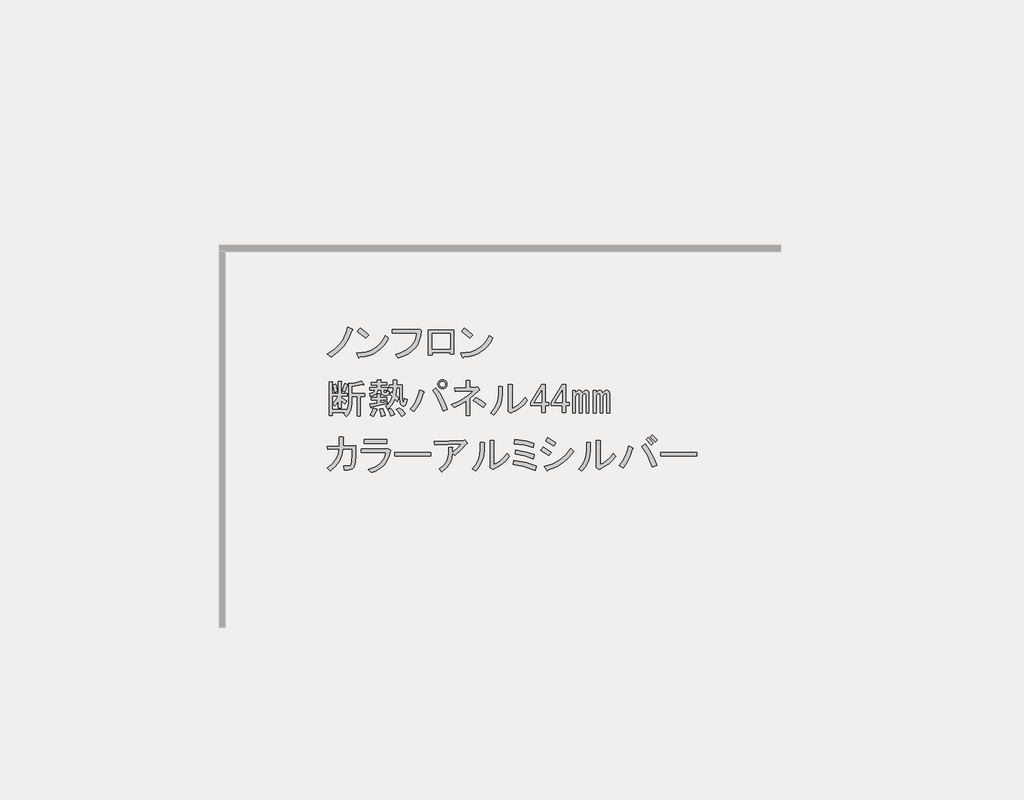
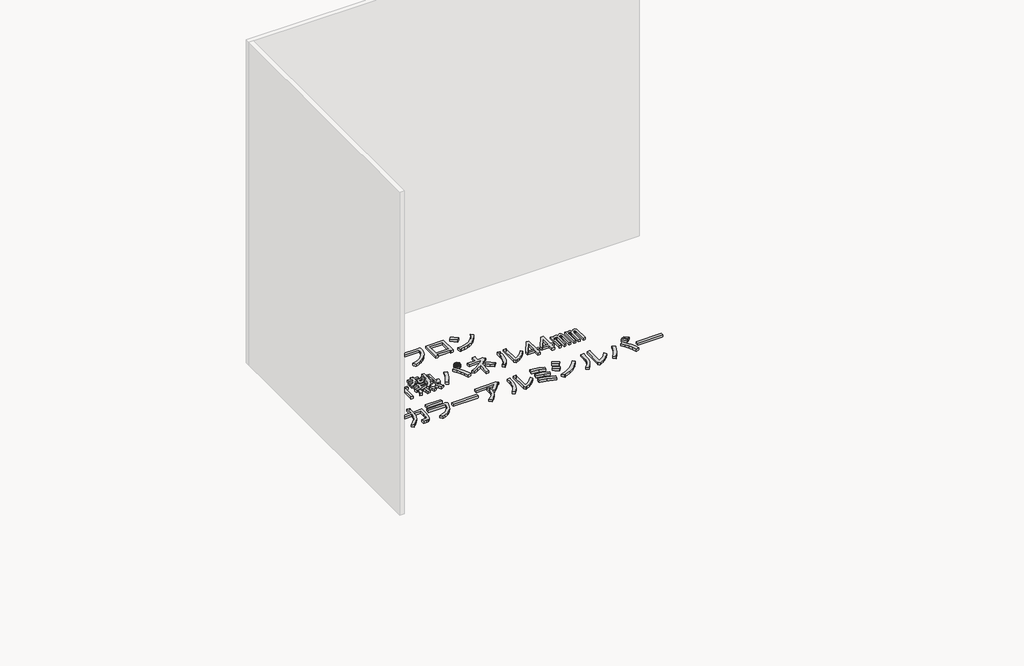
# One storey, part 88 of 117: 1 proxy.
"""IFC4 building model written with IfcOpenShell, lengths in millimetres."""

import ifcopenshell
import ifcopenshell.guid

model = None  # the IFC model being written
_history = None  # IfcOwnerHistory: only IFC2X3 demands one
_inside = {}  # id of a spatial element -> (the spatial element, [elements in it])
_under = {}  # id of a project, library or spatial element -> (it, [spatial elements below it])
_declared = {}  # id of a project -> (the project, [libraries it declares])
_typed = {}  # id of a type object -> (the type object, [elements of that type])
_made_of = {}  # id of a material, layer set ... -> (it, [elements and type objects made of it])


def new_model(schema):
    """Start an empty IFC model of exactly this schema.

    Asked for "IFC4X3", IfcOpenShell would pick the latest addendum, in which some entities
    have other attributes; the version numbers below select the first issue.
    IFC2X3 requires an IfcOwnerHistory on every rooted entity: one is made here for all.
    """
    global model, _history
    if schema == "IFC4X3":
        model = ifcopenshell.file(schema_version=(4, 3, 0, 0))
    else:
        model = ifcopenshell.file(schema=schema)
    _inside.clear()
    _under.clear()
    _declared.clear()
    _typed.clear()
    _made_of.clear()
    _history = None
    if model.schema == "IFC2X3":
        org = make("IfcOrganization", Name="unknown")
        user = make(
            "IfcPersonAndOrganization",
            ThePerson=make("IfcPerson", FamilyName="unknown"),
            TheOrganization=org,
        )
        app = make(
            "IfcApplication",
            ApplicationDeveloper=org,
            Version="unknown",
            ApplicationFullName="unknown",
            ApplicationIdentifier="unknown",
        )
        _history = make(
            "IfcOwnerHistory",
            OwningUser=user,
            OwningApplication=app,
            ChangeAction="ADDED",
            CreationDate=0,
        )
    return model


def make(cls, **values):
    """One entity of the class cls with the attributes given. An attribute that is None is left unset."""
    return model.create_entity(
        cls, **{name: value for name, value in values.items() if value is not None}
    )


def rooted(cls, **values):
    """An entity with a GlobalId (a new one), such as an element, a storey or a relation."""
    return make(cls, GlobalId=ifcopenshell.guid.new(), OwnerHistory=_history, **values)


def si_unit(unit_type, name, prefix=None):
    """IfcSIUnit, for example si_unit("LENGTHUNIT", "METRE", prefix="MILLI")."""
    return make("IfcSIUnit", UnitType=unit_type, Prefix=prefix, Name=name)


def assignment(units):
    """IfcUnitAssignment: the units of a project."""
    return None if units is None else make("IfcUnitAssignment", Units=units)


def point(xyz):
    """IfcCartesianPoint."""
    return None if xyz is None else make("IfcCartesianPoint", Coordinates=xyz)


def direction(xyz):
    """IfcDirection."""
    return None if xyz is None else make("IfcDirection", DirectionRatios=xyz)


def frame(location, z_axis=None, x_axis=None):
    """IfcAxis2Placement3D, a coordinate frame: its origin and axes. An axis left out is left unset."""
    return make(
        "IfcAxis2Placement3D",
        Location=point(location),
        Axis=direction(z_axis),
        RefDirection=direction(x_axis),
    )


def origin():
    """The frame at (0, 0, 0) with its axes left unset."""
    return frame((0.0, 0.0, 0.0))


def place(relative_to, where):
    """IfcLocalPlacement: puts the frame where relative to a parent placement (None: the world)."""
    return make(
        "IfcLocalPlacement", PlacementRelTo=relative_to, RelativePlacement=where
    )


def context(
    kind, dimensions, precision=None, world=None, true_north=None, identifier=None
):
    """IfcGeometricRepresentationContext, for example the 3D "Model" context."""
    return make(
        "IfcGeometricRepresentationContext",
        ContextIdentifier=identifier,
        ContextType=kind,
        CoordinateSpaceDimension=dimensions,
        Precision=precision,
        WorldCoordinateSystem=world,
        TrueNorth=true_north,
    )


def project(units=None, contexts=None):
    """IfcProject with its units and contexts."""
    return rooted(
        "IfcProject",
        Name="project",
        RepresentationContexts=contexts,
        UnitsInContext=assignment(units),
    )


def spatial(cls, under=None, at=None, **own):
    """A site, building, storey or space (cls), placed at a placement, below another one or the project."""
    s = rooted(cls, ObjectPlacement=at, **own)
    if under is not None:
        _under.setdefault(under.id(), (under, []))[1].append(s)
    return s


def polyline(points):
    """IfcPolyline through the points."""
    return make("IfcPolyline", Points=[point(p) for p in points])


def outline(outer, holes=None, kind="AREA"):
    """IfcArbitraryClosedProfileDef: a profile drawn as a closed curve; with holes, ...WithVoids."""
    if holes is None:
        return make("IfcArbitraryClosedProfileDef", ProfileType=kind, OuterCurve=outer)
    return make(
        "IfcArbitraryProfileDefWithVoids",
        ProfileType=kind,
        OuterCurve=outer,
        InnerCurves=holes,
    )


def extrude(swept, where, along, depth):
    """IfcExtrudedAreaSolid: the profile swept, set in the frame where, extruded along a direction by depth."""
    return make(
        "IfcExtrudedAreaSolid",
        SweptArea=swept,
        Position=where,
        ExtrudedDirection=direction(along),
        Depth=depth,
    )


def shape(context_of_items, identifier, shape_type, items):
    """IfcShapeRepresentation: the items that make up one representation, for example the "Body"."""
    return make(
        "IfcShapeRepresentation",
        ContextOfItems=context_of_items,
        RepresentationIdentifier=identifier,
        RepresentationType=shape_type,
        Items=items,
    )


def made_of(thing, what):
    """Note that an element or type object is made of a material, layer set ...; save() writes the relation."""
    if what is not None:
        _made_of.setdefault(what.id(), (what, []))[1].append(thing)
    return thing


def element(
    cls,
    number,
    at=None,
    inside=None,
    cuts=None,
    type_object=None,
    material=None,
    context=None,
    identifier="Body",
    shape_type=None,
    held_by="IfcProductDefinitionShape",
    body=None,
    shapes=None,
    **own,
):
    """One element of the class cls, such as IfcWall. Its Tag is "e" and its number.

    at: its placement. inside: the storey or other place that contains it. cuts: it is an
    opening in that element (IfcRelVoidsElement). A single representation is given by context,
    identifier, shape_type and body (its items); several are given by shapes. held_by: the class
    of the entity that holds the representations. save() writes the other relations.
    """
    e = rooted(cls, Tag="e%d" % number, ObjectPlacement=at, **own)
    if body is not None:
        shapes = [shape(context, identifier, shape_type, body)]
    if shapes is not None:
        e.Representation = make(held_by, Representations=shapes)
    if inside is not None:
        _inside.setdefault(inside.id(), (inside, []))[1].append(e)
    if cuts is not None:
        rooted(
            "IfcRelVoidsElement", RelatingBuildingElement=cuts, RelatedOpeningElement=e
        )
    if type_object is not None:
        _typed.setdefault(type_object.id(), (type_object, []))[1].append(e)
    return made_of(e, material)


def aggregate(whole, parts):
    """IfcRelAggregates: a whole, such as a stair, and the parts it consists of."""
    return rooted("IfcRelAggregates", RelatingObject=whole, RelatedObjects=parts)


def save(model, path):
    """Write the relations noted so far, then the file.

    IfcRelAggregates (storeys below a building ...), IfcRelContainedInSpatialStructure (elements
    in a storey), IfcRelDefinesByType, IfcRelAssociatesMaterial and IfcRelDeclares: one each for
    every whole, place, type object, material and project.
    """
    for whole, parts in _under.values():
        aggregate(whole, parts)
    for where, things in _inside.values():
        rooted(
            "IfcRelContainedInSpatialStructure",
            RelatedElements=things,
            RelatingStructure=where,
        )
    for kind, things in _typed.values():
        rooted("IfcRelDefinesByType", RelatedObjects=things, RelatingType=kind)
    for what, things in _made_of.values():
        rooted("IfcRelAssociatesMaterial", RelatedObjects=things, RelatingMaterial=what)
    for by, libraries in _declared.values():
        rooted("IfcRelDeclares", RelatingContext=by, RelatedDefinitions=libraries)
    model.write(path)


model = new_model("IFC4")

# Units and contexts
model_context = context("Model", 3, world=origin())
ifc_project = project(units=[si_unit("LENGTHUNIT", "METRE", prefix="MILLI")], contexts=[model_context])

# Site, building, storey
site = spatial("IfcSite", under=ifc_project)
building = spatial("IfcBuilding", under=site)
storey = spatial("IfcBuildingStorey", under=building, Name="レベル 1", Elevation=500.0)

# Proxy
placement = place(None, origin())
element("IfcBuildingElementProxy", 1, Name="200㎜\u3000MS Pゴシック", ObjectType="200㎜\u3000MS Pゴシック", at=placement, inside=storey, context=model_context, shape_type="SweptSolid", body=[
    extrude(outline(polyline([(943.6706985, 11392.9503118), (918.0952502, 11333.1784775), (889.646156, 11287.2001434), (847.9782907, 11241.7965385), (798.8389462, 11204.439142), (771.2519457, 11226.2788507), (818.9544673, 11256.7394971), (858.6107805, 11295.2463519), (875.9963381, 11319.1694538), (891.3703435, 11347.2593423), (904.7327969, 11379.5160173), (916.0836981, 11415.9394788), (947.1190736, 11402.1459786), (950.2800841, 11397.5481452), (943.6706985, 11392.9503118)])), frame((0.0, 0.0, 500.0), z_axis=(0.0, 0.0, 1.0), x_axis=(1.0, 0.0, 0.0)), (0.0, 0.0, 1.0), 25.0),
    extrude(outline(polyline([(1043.3977052, 11337.7763109), (984.7753292, 11384.9041033), (1004.3161212, 11409.0427287), (1031.6157571, 11389.2145721), (1065.2374138, 11359.6160196), (1043.3977052, 11337.7763109)])), frame((0.0, 0.0, 500.0), z_axis=(0.0, 0.0, 1.0), x_axis=(1.0, 0.0, 0.0)), (0.0, 0.0, 1.0), 25.0),
    extrude(outline(polyline([(1205.4713328, 11337.7763109), (1188.947869, 11308.034076), (1169.8381239, 11282.0275808), (1148.1420975, 11259.7568252), (1123.8597898, 11241.2218093), (1096.9912008, 11226.422533), (1067.5363306, 11215.3589964), (1035.495179, 11208.0311994), (1000.8677461, 11204.439142), (995.1204544, 11196.3929336), (989.3731626, 11202.1402253), (980.1774958, 11232.0261425), (1016.0082679, 11234.7022252), (1048.7857912, 11241.0062859), (1078.5100658, 11250.9383244), (1105.1810916, 11264.4983409), (1128.7988687, 11281.6863354), (1149.363397, 11302.5023077), (1166.8746766, 11326.946258), (1181.3327074, 11355.0181862), (1205.4713328, 11337.7763109)])), frame((0.0, 0.0, 500.0), z_axis=(0.0, 0.0, 1.0), x_axis=(1.0, 0.0, 0.0)), (0.0, 0.0, 1.0), 25.0),
    extrude(outline(polyline([(1256.2314136, 11222.8304757), (1290.014713, 11232.5110702), (1319.5234641, 11244.8857078), (1344.757667, 11259.9543884), (1365.7173217, 11277.717112), (1382.402428, 11298.1738786), (1394.8129862, 11321.3246882), (1402.9489961, 11347.1695409), (1406.8104577, 11375.7084365), (1234.3917049, 11375.7084365), (1234.3917049, 11400.9965202), (1409.1093744, 11400.9965202), (1425.2017914, 11404.4448953), (1437.8458332, 11392.9503118), (1434.325617, 11356.4550091), (1426.0638851, 11323.4080815), (1413.0606375, 11293.8095289), (1395.3158742, 11267.6593514), (1372.8295952, 11244.957549), (1345.6018005, 11225.7041216), (1313.6324901, 11209.8990692), (1276.921664, 11197.5423919), (1256.2314136, 11222.8304757)])), frame((0.0, 0.0, 500.0), z_axis=(0.0, 0.0, 1.0), x_axis=(1.0, 0.0, 0.0)), (0.0, 0.0, 1.0), 25.0),
    extrude(outline(polyline([(1670.955987, 11223.979934), (1644.5184449, 11223.979934), (1644.5184449, 11236.6239759), (1516.9285679, 11236.6239759), (1516.9285679, 11218.2326423), (1490.4910258, 11218.2326423), (1490.4910258, 11397.5481452), (1670.955987, 11397.5481452), (1670.955987, 11223.979934)]), holes=[polyline([(1516.9285679, 11372.2600614), (1516.9285679, 11261.9120596), (1644.5184449, 11261.9120596), (1644.5184449, 11372.2600614), (1516.9285679, 11372.2600614)])]), frame((0.0, 0.0, 500.0), z_axis=(0.0, 0.0, 1.0), x_axis=(1.0, 0.0, 0.0)), (0.0, 0.0, 1.0), 25.0),
    extrude(outline(polyline([(1947.0099049, 11337.7763109), (1930.4864411, 11308.034076), (1911.376696, 11282.0275808), (1889.6806696, 11259.7568252), (1865.3983619, 11241.2218093), (1838.5297729, 11226.422533), (1809.0749026, 11215.3589964), (1777.0337511, 11208.0311994), (1742.4063182, 11204.439142), (1736.6590264, 11196.3929336), (1730.9117347, 11202.1402253), (1721.7160679, 11232.0261425), (1757.5468399, 11234.7022252), (1790.3243633, 11241.0062859), (1820.0486378, 11250.9383244), (1846.7196637, 11264.4983409), (1870.3374407, 11281.6863354), (1890.9019691, 11302.5023077), (1908.4132486, 11326.946258), (1922.8712795, 11355.0181862), (1947.0099049, 11337.7763109)])), frame((0.0, 0.0, 500.0), z_axis=(0.0, 0.0, 1.0), x_axis=(1.0, 0.0, 0.0)), (0.0, 0.0, 1.0), 25.0),
    extrude(outline(polyline([(1784.9362772, 11337.7763109), (1726.3139013, 11384.9041033), (1745.8546933, 11409.0427287), (1773.1543291, 11389.2145721), (1806.7759859, 11359.6160196), (1784.9362772, 11337.7763109)])), frame((0.0, 0.0, 500.0), z_axis=(0.0, 0.0, 1.0), x_axis=(1.0, 0.0, 0.0)), (0.0, 0.0, 1.0), 25.0),
    extrude(outline(polyline([(877.0021141, 10960.7654779), (894.2439894, 11013.6405621), (914.9342397, 11007.8932704), (916.6584273, 11004.7322599), (912.635323, 11002.1459786), (895.3934478, 10953.8687278), (877.0021141, 10960.7654779)])), frame((0.0, 0.0, 500.0), z_axis=(0.0, 0.0, 1.0), x_axis=(1.0, 0.0, 0.0)), (0.0, 0.0, 1.0), 25.0),
    extrude(outline(polyline([(1031.0295333, 11009.0427287), (1029.3053458, 11004.4448953), (1021.8338665, 11006.743812), (944.8201569, 10994.0997701), (944.8201569, 10944.673061), (1036.7768251, 10944.673061), (1036.7768251, 10922.8333523), (1005.7414495, 10922.8333523), (1005.7414495, 10782.5994334), (982.7522825, 10782.5994334), (982.7522825, 10922.8333523), (944.8201569, 10922.8333523), (944.8201569, 10873.4066432), (942.2338756, 10845.6041193), (934.4750317, 10820.8189236), (921.5436253, 10799.051056), (903.4396562, 10780.3005167), (886.1977809, 10799.8413086), (896.5429061, 10809.0369755), (806.8851546, 10809.0369755), (806.8851546, 10787.1972668), (783.8959876, 10787.1972668), (783.8959876, 11026.284604), (805.7356963, 11026.284604), (810.6208943, 11023.9856873), (806.8851546, 11019.3878539), (806.8851546, 10943.5236026), (849.4151137, 10943.5236026), (849.4151137, 11030.8824374), (867.8064473, 11030.8824374), (872.6916453, 11028.5835207), (868.9559057, 11023.9856873), (868.9559057, 10943.5236026), (912.635323, 10943.5236026), (912.635323, 10925.132269), (868.9559057, 10925.132269), (868.9559057, 10915.9366022), (909.186948, 10889.4990601), (895.3934478, 10867.6593514), (868.9559057, 10894.0968935), (868.9559057, 10841.2218093), (849.4151137, 10841.2218093), (849.4151137, 10889.4990601), (836.1963426, 10869.6709035), (821.8281132, 10853.8658512), (809.1840713, 10872.2571848), (831.02378, 10896.3958102), (848.2656553, 10925.132269), (806.8851546, 10925.132269), (806.8851546, 10830.8766841), (904.5891146, 10830.8766841), (904.5891146, 10817.0831839), (917.520521, 10841.2218093), (921.8309898, 10874.5561015), (921.8309898, 11019.3878539), (943.6706985, 11013.6405621), (979.8786366, 11021.1120414), (1010.339283, 11034.3308125), (1031.0295333, 11009.0427287)])), frame((0.0, 0.0, 500.0), z_axis=(0.0, 0.0, 1.0), x_axis=(1.0, 0.0, 0.0)), (0.0, 0.0, 1.0), 25.0),
    extrude(outline(polyline([(822.9775716, 10952.7192695), (810.3335297, 11003.2954369), (829.8743217, 11010.1921871), (837.6331656, 10986.0535617), (842.5183636, 10959.6160196), (822.9775716, 10952.7192695)])), frame((0.0, 0.0, 500.0), z_axis=(0.0, 0.0, 1.0), x_axis=(1.0, 0.0, 0.0)), (0.0, 0.0, 1.0), 25.0),
    extrude(outline(polyline([(1121.8367431, 10832.0261425), (1125.2851182, 10827.1409445), (1119.5378264, 10823.979934), (1109.7674304, 10798.4044857), (1098.8475761, 10779.1510583), (1075.858409, 10790.6456418), (1088.5024509, 10814.209538), (1098.8475761, 10841.2218093), (1121.8367431, 10832.0261425)])), frame((0.0, 0.0, 500.0), z_axis=(0.0, 0.0, 1.0), x_axis=(1.0, 0.0, 0.0)), (0.0, 0.0, 1.0), 25.0),
    extrude(outline(polyline([(1166.6656188, 10836.6239759), (1176.7233794, 10809.32434), (1181.6085774, 10787.1972668), (1152.8721186, 10781.449975), (1150.2858373, 10803.0023191), (1142.5269934, 10833.1756008), (1166.6656188, 10836.6239759)])), frame((0.0, 0.0, 500.0), z_axis=(0.0, 0.0, 1.0), x_axis=(1.0, 0.0, 0.0)), (0.0, 0.0, 1.0), 25.0),
    extrude(outline(polyline([(1281.611454, 10842.3712677), (1306.3248086, 10821.1062881), (1325.2908714, 10796.3929336), (1298.8533293, 10781.449975), (1279.5999019, 10811.0485276), (1260.9212037, 10830.8766841), (1281.611454, 10842.3712677)])), frame((0.0, 0.0, 500.0), z_axis=(0.0, 0.0, 1.0), x_axis=(1.0, 0.0, 0.0)), (0.0, 0.0, 1.0), 25.0),
    extrude(outline(polyline([(1222.9890781, 10783.7488917), (1214.655505, 10808.4622463), (1201.1493694, 10829.7272258), (1221.8396197, 10837.7734343), (1238.7941304, 10816.2210902), (1250.5760785, 10792.9445585), (1222.9890781, 10783.7488917)])), frame((0.0, 0.0, 500.0), z_axis=(0.0, 0.0, 1.0), x_axis=(1.0, 0.0, 0.0)), (0.0, 0.0, 1.0), 25.0),
    extrude(outline(polyline([(1083.9046175, 10846.9691011), (1081.8930654, 10842.0839031), (1078.1573257, 10843.520726), (1072.410034, 10867.6593514), (1127.5840349, 10875.7055599), (1127.5840349, 10898.6947269), (1083.9046175, 10898.6947269), (1083.9046175, 10917.0860605), (1127.5840349, 10917.0860605), (1127.5840349, 10940.0752276), (1145.9753685, 10940.0752276), (1150.8605665, 10937.7763109), (1147.1248268, 10933.1784775), (1147.1248268, 10917.0860605), (1191.9537026, 10917.0860605), (1191.9537026, 10898.6947269), (1147.1248268, 10898.6947269), (1147.1248268, 10879.1539349), (1197.7009943, 10888.3496017), (1197.7009943, 10872.2571848), (1083.9046175, 10846.9691011)])), frame((0.0, 0.0, 500.0), z_axis=(0.0, 0.0, 1.0), x_axis=(1.0, 0.0, 0.0)), (0.0, 0.0, 1.0), 25.0),
    extrude(outline(polyline([(1154.021577, 10968.8116864), (1128.7334932, 10968.8116864), (1124.1356598, 10951.3542877), (1113.7905346, 10938.0636755), (1097.6981177, 10928.9398498), (1075.858409, 10923.9828107), (1071.2605756, 10943.5236026), (1096.5486594, 10952.1445403), (1104.0201386, 10959.4723373), (1108.0432429, 10968.8116864), (1072.410034, 10968.8116864), (1072.410034, 10987.20302), (1126.4345765, 10987.20302), (1126.4345765, 11004.4448953), (1082.7551591, 11004.4448953), (1082.7551591, 11022.8362289), (1126.4345765, 11022.8362289), (1126.4345765, 11041.2275626), (1148.2742852, 11041.2275626), (1153.1594832, 11038.9286459), (1149.4237436, 11034.3308125), (1149.4237436, 11022.8362289), (1191.9537026, 11022.8362289), (1191.9537026, 11004.4448953), (1149.4237436, 11004.4448953), (1149.4237436, 10987.20302), (1202.2988277, 10987.20302), (1202.2988277, 10968.8116864), (1173.5623689, 10968.8116864), (1173.5623689, 10956.1676445), (1174.9991919, 10950.9950819), (1179.3096607, 10949.2708944), (1189.6547859, 10949.2708944), (1193.3905255, 10952.4319049), (1193.1031609, 10961.9149363), (1212.6439529, 10959.6160196), (1209.770307, 10938.0636755), (1204.4540622, 10932.6755894), (1196.551536, 10930.8795608), (1172.4129106, 10930.8795608), (1158.6194104, 10935.7647588), (1154.021577, 10950.4203528), (1154.021577, 10968.8116864)])), frame((0.0, 0.0, 500.0), z_axis=(0.0, 0.0, 1.0), x_axis=(1.0, 0.0, 0.0)), (0.0, 0.0, 1.0), 25.0),
    extrude(outline(polyline([(1285.0598291, 10986.0535617), (1263.2201204, 10986.0535617), (1258.622287, 10928.5806441), (1278.163079, 10910.1893104), (1267.8179538, 10888.3496017), (1251.7255369, 10904.4420187), (1232.4721095, 10866.7972576), (1202.2988277, 10834.3250592), (1185.0569525, 10855.0153095), (1200.1435933, 10866.9409399), (1213.2186821, 10882.0275808), (1224.2822187, 10900.2752321), (1233.3342033, 10921.683894), (1216.092328, 10936.6268525), (1224.1385364, 10953.8687278), (1237.9320367, 10943.5236026), (1240.2309534, 10986.0535617), (1212.6439529, 10986.0535617), (1212.6439529, 11004.4448953), (1240.2309534, 11004.4448953), (1240.2309534, 11038.9286459), (1262.0706621, 11038.9286459), (1266.95586, 11036.6297292), (1263.2201204, 11032.0318957), (1263.2201204, 11004.4448953), (1304.6006211, 11004.4448953), (1304.6006211, 10907.8903937), (1308.0489961, 10883.7517683), (1311.2818477, 10881.7402162), (1314.0836525, 10884.9012267), (1318.3941213, 10906.7409354), (1337.9349133, 10899.8441853), (1333.408921, 10873.0474374), (1325.578236, 10857.0268616), (1314.4428582, 10851.7824579), (1300.0027877, 10857.3142262), (1293.4652433, 10864.6420232), (1288.7955687, 10876.280289), (1285.0598291, 10912.4882271), (1285.0598291, 10986.0535617)])), frame((0.0, 0.0, 500.0), z_axis=(0.0, 0.0, 1.0), x_axis=(1.0, 0.0, 0.0)), (0.0, 0.0, 1.0), 25.0),
    extrude(outline(polyline([(1543.6879583, 10983.754645), (1570.3410238, 10947.0438188), (1592.8273029, 10909.3272167), (1611.1467953, 10870.6048384), (1625.2995013, 10830.8766841), (1594.2641258, 10820.531559), (1578.8182792, 10863.6362472), (1561.2171982, 10902.143102), (1541.4608827, 10936.0521234), (1519.5493329, 10965.3633113), (1543.6879583, 10983.754645)])), frame((0.0, 0.0, 500.0), z_axis=(0.0, 0.0, 1.0), x_axis=(1.0, 0.0, 0.0)), (0.0, 0.0, 1.0), 25.0),
    extrude(outline(polyline([(1456.3291235, 10957.3171029), (1460.3522278, 10951.8571757), (1454.0302068, 10946.9719777), (1442.1045764, 10911.5542922), (1427.0179356, 10877.717112), (1408.7702842, 10845.460437), (1387.3616224, 10814.7842672), (1360.9240803, 10832.0261425), (1384.1287708, 10863.4925649), (1403.1666748, 10896.9705394), (1418.0377922, 10932.460066), (1428.7421231, 10969.9611447), (1456.3291235, 10957.3171029)])), frame((0.0, 0.0, 500.0), z_axis=(0.0, 0.0, 1.0), x_axis=(1.0, 0.0, 0.0)), (0.0, 0.0, 1.0), 25.0),
    extrude(outline(polyline([(1589.6662924, 10978.0073532), (1577.0222505, 10980.3062699), (1566.6771253, 10987.20302), (1559.7803752, 10997.5481452), (1557.4814585, 11010.1921871), (1559.7803752, 11022.8362289), (1566.6771253, 11033.1813541), (1577.0222505, 11040.0781042), (1589.6662924, 11042.3770209), (1602.3103343, 11040.0781042), (1612.6554594, 11033.1813541), (1619.5522095, 11022.8362289), (1621.8511262, 11010.1921871), (1619.5522095, 10997.5481452), (1612.6554594, 10987.20302), (1602.3103343, 10980.3062699), (1589.6662924, 10978.0073532)]), holes=[polyline([(1589.6662924, 10989.5019367), (1597.9998654, 10990.9387597), (1604.609251, 10995.2492285), (1608.9197198, 11001.858614), (1610.3565427, 11010.1921871), (1608.9197198, 11018.5257601), (1604.609251, 11025.1351456), (1597.9998654, 11029.4456145), (1589.6662924, 11030.8824374), (1581.3327193, 11029.4456145), (1574.7233338, 11025.1351456), (1570.412865, 11018.5257601), (1568.976042, 11010.1921871), (1570.412865, 11001.858614), (1574.7233338, 10995.2492285), (1581.3327193, 10990.9387597), (1589.6662924, 10989.5019367)])]), frame((0.0, 0.0, 500.0), z_axis=(0.0, 0.0, 1.0), x_axis=(1.0, 0.0, 0.0)), (0.0, 0.0, 1.0), 25.0),
    extrude(outline(polyline([(1879.3297971, 10844.6701844), (1842.2597652, 10873.9813723), (1809.2128376, 10895.2463519), (1826.4547129, 10917.0860605), (1865.2489323, 10893.8095289), (1898.8705891, 10867.6593514), (1879.3297971, 10844.6701844)])), frame((0.0, 0.0, 500.0), z_axis=(0.0, 0.0, 1.0), x_axis=(1.0, 0.0, 0.0)), (0.0, 0.0, 1.0), 25.0),
    extrude(outline(polyline([(1833.351463, 10988.3524784), (1840.2482131, 10990.6513951), (1852.892255, 10973.4095198), (1854.0417134, 10967.3748634), (1848.2944216, 10965.3633113), (1785.0742122, 10909.0398521), (1785.0742122, 10788.3467251), (1758.6366701, 10788.3467251), (1758.6366701, 10890.6485184), (1718.4056278, 10866.5098931), (1673.5767521, 10844.6701844), (1654.0359601, 10865.3604347), (1699.5832473, 10884.8293855), (1740.8200657, 10907.6030291), (1777.7464152, 10933.6813655), (1810.362296, 10963.0643946), (1680.4735022, 10957.3171029), (1677.0251271, 10982.6051866), (1758.6366701, 10984.9041033), (1758.6366701, 11036.6297292), (1781.6258372, 11036.6297292), (1787.6604935, 11033.1813541), (1785.0742122, 11027.4340623), (1785.0742122, 10986.0535617), (1833.351463, 10988.3524784)])), frame((0.0, 0.0, 500.0), z_axis=(0.0, 0.0, 1.0), x_axis=(1.0, 0.0, 0.0)), (0.0, 0.0, 1.0), 25.0),
    extrude(outline(polyline([(1932.296838, 10806.7380587), (1957.4412394, 10835.9774056), (1975.4015262, 10868.5214452), (1986.1776982, 10904.3701775), (1989.7697556, 10943.5236026), (1989.7697556, 10995.2492285), (2013.908381, 10995.2492285), (2019.6556727, 10991.8008534), (2016.2072977, 10986.0535617), (2016.2072977, 10944.673061), (2012.3997169, 10898.9102504), (2000.9769745, 10858.17632), (1981.9390705, 10822.4712699), (1955.286005, 10791.7951002), (1932.296838, 10806.7380587)])), frame((0.0, 0.0, 500.0), z_axis=(0.0, 0.0, 1.0), x_axis=(1.0, 0.0, 0.0)), (0.0, 0.0, 1.0), 25.0),
    extrude(outline(polyline([(2086.3242571, 10837.7734343), (2111.1094529, 10849.9864292), (2134.8888725, 10867.0846222), (2157.6625161, 10889.0680132), (2179.4303837, 10915.9366022), (2195.5228006, 10894.0968935), (2172.246269, 10866.2943696), (2146.0960914, 10842.6586322), (2117.0722681, 10823.1896814), (2085.1747988, 10807.8875171), (2075.979132, 10803.2896837), (2057.5877983, 10817.0831839), (2059.886715, 10822.8304757), (2059.886715, 11007.8932704), (2084.0253404, 11007.8932704), (2089.7726322, 11004.4448953), (2086.3242571, 10998.6976035), (2086.3242571, 10837.7734343)])), frame((0.0, 0.0, 500.0), z_axis=(0.0, 0.0, 1.0), x_axis=(1.0, 0.0, 0.0)), (0.0, 0.0, 1.0), 25.0),
    extrude(outline(polyline([(2295.5256772, 11006.743812), (2321.9632193, 11006.743812), (2321.9632193, 10880.3033933), (2346.1018447, 10880.3033933), (2346.1018447, 10858.4636846), (2321.9632193, 10858.4636846), (2321.9632193, 10807.8875171), (2295.5256772, 10807.8875171), (2295.5256772, 10858.4636846), (2218.5119676, 10858.4636846), (2218.5119676, 10881.4528516), (2295.5256772, 11006.743812)]), holes=[polyline([(2295.5256772, 10964.213853), (2243.8000514, 10880.3033933), (2295.5256772, 10880.3033933), (2295.5256772, 10964.213853)])]), frame((0.0, 0.0, 500.0), z_axis=(0.0, 0.0, 1.0), x_axis=(1.0, 0.0, 0.0)), (0.0, 0.0, 1.0), 25.0),
    extrude(outline(polyline([(2442.6563463, 11006.743812), (2469.0938884, 11006.743812), (2469.0938884, 10880.3033933), (2493.2325138, 10880.3033933), (2493.2325138, 10858.4636846), (2469.0938884, 10858.4636846), (2469.0938884, 10807.8875171), (2442.6563463, 10807.8875171), (2442.6563463, 10858.4636846), (2365.6426367, 10858.4636846), (2365.6426367, 10881.4528516), (2442.6563463, 11006.743812)]), holes=[polyline([(2442.6563463, 10964.213853), (2390.9307204, 10880.3033933), (2442.6563463, 10880.3033933), (2442.6563463, 10964.213853)])]), frame((0.0, 0.0, 500.0), z_axis=(0.0, 0.0, 1.0), x_axis=(1.0, 0.0, 0.0)), (0.0, 0.0, 1.0), 25.0),
    extrude(outline(polyline([(2536.9119311, 10806.7380587), (2517.3711392, 10806.7380587), (2517.3711392, 10964.213853), (2536.9119311, 10964.213853), (2536.9119311, 10946.9719777), (2548.9812438, 10962.4896654), (2562.2000149, 10967.662228), (2571.3956817, 10966.2254051), (2578.2924318, 10961.9149363), (2585.1891819, 10948.121436), (2598.1205884, 10962.77703), (2611.626724, 10967.662228), (2619.9602971, 10966.2254051), (2626.5696826, 10961.9149363), (2631.7422452, 10953.2939986), (2633.4664327, 10941.2246859), (2633.4664327, 10806.7380587), (2613.9256407, 10806.7380587), (2613.9256407, 10930.8795608), (2611.3393594, 10940.3625922), (2603.5805156, 10943.5236026), (2593.2353904, 10938.9257692), (2587.200734, 10930.3048316), (2585.1891819, 10920.5344356), (2585.1891819, 10806.7380587), (2565.6483899, 10806.7380587), (2565.6483899, 10930.8795608), (2563.0621086, 10940.3625922), (2555.3032648, 10943.5236026), (2544.9581396, 10938.9257692), (2538.9234833, 10930.3048316), (2536.9119311, 10920.5344356), (2536.9119311, 10806.7380587)])), frame((0.0, 0.0, 500.0), z_axis=(0.0, 0.0, 1.0), x_axis=(1.0, 0.0, 0.0)), (0.0, 0.0, 1.0), 25.0),
    extrude(outline(polyline([(2758.7573931, 10967.662228), (2767.0909661, 10966.2254051), (2773.7003517, 10961.9149363), (2778.8729142, 10953.2939986), (2780.5971018, 10941.2246859), (2780.5971018, 10806.7380587), (2761.0563098, 10806.7380587), (2761.0563098, 10930.8795608), (2758.4700285, 10940.3625922), (2750.7111846, 10943.5236026), (2740.3660594, 10938.9257692), (2734.3314031, 10930.3048316), (2732.319851, 10920.5344356), (2732.319851, 10806.7380587), (2712.779059, 10806.7380587), (2712.779059, 10930.8795608), (2710.1927777, 10940.3625922), (2702.4339338, 10943.5236026), (2692.0888087, 10938.9257692), (2686.0541523, 10930.3048316), (2684.0426002, 10920.5344356), (2684.0426002, 10806.7380587), (2664.5018082, 10806.7380587), (2664.5018082, 10964.213853), (2684.0426002, 10964.213853), (2684.0426002, 10946.9719777), (2696.1119129, 10962.4896654), (2709.3306839, 10967.662228), (2718.5263508, 10966.2254051), (2725.4231009, 10961.9149363), (2732.319851, 10948.121436), (2745.2512574, 10962.77703), (2758.7573931, 10967.662228)])), frame((0.0, 0.0, 500.0), z_axis=(0.0, 0.0, 1.0), x_axis=(1.0, 0.0, 0.0)), (0.0, 0.0, 1.0), 25.0),
    extrude(outline(polyline([(947.1190736, 10549.2708944), (881.5999475, 10546.9719777), (873.3382156, 10500.706279), (855.44977, 10459.6131429), (827.9346107, 10423.6925694), (790.7927377, 10392.9445585), (771.2519457, 10412.4853505), (806.2385843, 10440.7189213), (831.8858738, 10472.5445494), (848.1938142, 10507.9622349), (855.1624054, 10546.9719777), (773.5508624, 10544.673061), (771.2519457, 10567.662228), (856.3118638, 10569.9611447), (856.3118638, 10634.3308125), (880.4504892, 10634.3308125), (887.3472393, 10630.8824374), (882.7494059, 10625.1351456), (882.7494059, 10569.9611447), (973.5566157, 10573.4095198), (973.5566157, 10502.143102), (970.9703344, 10454.1532158), (963.2114905, 10422.8304757), (956.602105, 10412.7727151), (947.1190736, 10405.5886004), (934.7623963, 10401.2781316), (919.5320731, 10399.8413086), (891.9450727, 10399.8413086), (888.4966976, 10428.5777674), (918.3826148, 10426.2788507), (932.4634796, 10429.1524966), (940.2223235, 10437.7734343), (945.3948861, 10463.061518), (947.1190736, 10502.143102), (947.1190736, 10549.2708944)])), frame((0.0, 0.0, 500.0), z_axis=(0.0, 0.0, 1.0), x_axis=(1.0, 0.0, 0.0)), (0.0, 0.0, 1.0), 25.0),
    extrude(outline(polyline([(1061.9729521, 10403.2896837), (1111.6151847, 10421.6091762), (1131.8564279, 10433.7323697), (1149.0444223, 10447.8311948), (1163.179168, 10463.9056515), (1174.2606649, 10481.9557397), (1182.2889131, 10501.9814594), (1187.2639125, 10523.9828107), (1012.546243, 10523.9828107), (1012.546243, 10549.2708944), (1188.4133709, 10549.2708944), (1198.758496, 10552.7192695), (1219.4487464, 10540.0752276), (1222.3223922, 10534.6153004), (1217.1498297, 10529.7301024), (1211.0253719, 10502.2508637), (1201.8476653, 10477.2860651), (1189.6167101, 10454.8357067), (1174.332506, 10434.8997884), (1155.9950533, 10417.4783102), (1134.6043517, 10402.5712722), (1110.1604015, 10390.1786744), (1082.6632025, 10380.3005167), (1061.9729521, 10403.2896837)])), frame((0.0, 0.0, 500.0), z_axis=(0.0, 0.0, 1.0), x_axis=(1.0, 0.0, 0.0)), (0.0, 0.0, 1.0), 25.0),
    extrude(outline(polyline([(1191.8617459, 10589.5019367), (1033.2364933, 10589.5019367), (1033.2364933, 10614.7900205), (1191.8617459, 10614.7900205), (1191.8617459, 10589.5019367)])), frame((0.0, 0.0, 500.0), z_axis=(0.0, 0.0, 1.0), x_axis=(1.0, 0.0, 0.0)), (0.0, 0.0, 1.0), 25.0),
    extrude(outline(polyline([(1250.8979269, 10498.6947269), (1250.8979269, 10523.9828107), (1507.2271394, 10523.9828107), (1507.2271394, 10498.6947269), (1250.8979269, 10498.6947269)])), frame((0.0, 0.0, 500.0), z_axis=(0.0, 0.0, 1.0), x_axis=(1.0, 0.0, 0.0)), (0.0, 0.0, 1.0), 25.0),
    extrude(outline(polyline([(1659.8292302, 10521.683894), (1656.0216494, 10480.4470756), (1642.2999903, 10444.0954552), (1618.664253, 10412.6290328), (1585.1144373, 10386.0478084), (1565.5736453, 10407.8875171), (1595.244039, 10428.1467206), (1616.4371774, 10452.1416637), (1629.1530604, 10479.8723464), (1633.3916881, 10511.3387688), (1633.3916881, 10560.7654779), (1657.5303135, 10560.7654779), (1663.2776052, 10558.1791966), (1659.8292302, 10552.7192695), (1659.8292302, 10522.8333523), (1696.3245329, 10553.5813632), (1723.0494396, 10583.754645), (1535.6877282, 10576.8578948), (1533.3888115, 10603.2954369), (1742.5902315, 10609.0427287), (1750.63644, 10611.3416454), (1767.8783153, 10590.6513951), (1768.1656799, 10587.4903846), (1762.1310235, 10587.20302), (1724.1988979, 10543.8109672), (1679.3700222, 10503.2925603), (1659.8292302, 10521.683894)])), frame((0.0, 0.0, 500.0), z_axis=(0.0, 0.0, 1.0), x_axis=(1.0, 0.0, 0.0)), (0.0, 0.0, 1.0), 25.0),
    extrude(outline(polyline([(1956.8492684, 10437.7734343), (1981.6344641, 10449.9864292), (2005.4138837, 10467.0846222), (2028.1875273, 10489.0680132), (2049.9553949, 10515.9366022), (2066.0478118, 10494.0968935), (2042.7712802, 10466.2943696), (2016.6211027, 10442.6586322), (1987.5972793, 10423.1896814), (1955.69981, 10407.8875171), (1946.5041432, 10403.2896837), (1928.1128096, 10417.0831839), (1930.4117263, 10422.8304757), (1930.4117263, 10607.8932704), (1954.5503517, 10607.8932704), (1960.2976434, 10604.4448953), (1956.8492684, 10598.6976035), (1956.8492684, 10437.7734343)])), frame((0.0, 0.0, 500.0), z_axis=(0.0, 0.0, 1.0), x_axis=(1.0, 0.0, 0.0)), (0.0, 0.0, 1.0), 25.0),
    extrude(outline(polyline([(1802.8218492, 10406.7380587), (1827.9662506, 10435.9774056), (1845.9265374, 10468.5214452), (1856.7027094, 10504.3701775), (1860.2947668, 10543.5236026), (1860.2947668, 10595.2492285), (1884.4333922, 10595.2492285), (1890.1806839, 10591.8008534), (1886.7323089, 10586.0535617), (1886.7323089, 10544.673061), (1882.9247281, 10498.9102504), (1871.5019857, 10458.17632), (1852.4640818, 10422.4712699), (1825.8110162, 10391.7951002), (1802.8218492, 10406.7380587)])), frame((0.0, 0.0, 500.0), z_axis=(0.0, 0.0, 1.0), x_axis=(1.0, 0.0, 0.0)), (0.0, 0.0, 1.0), 25.0),
    extrude(outline(polyline([(2237.3171063, 10479.1539349), (2180.7062824, 10497.8326331), (2107.4283125, 10512.4882271), (2110.8766875, 10540.0752276), (2180.1315532, 10528.0059149), (2245.3633147, 10507.8903937), (2237.3171063, 10479.1539349)])), frame((0.0, 0.0, 500.0), z_axis=(0.0, 0.0, 1.0), x_axis=(1.0, 0.0, 0.0)), (0.0, 0.0, 1.0), 25.0),
    extrude(outline(polyline([(2251.1106065, 10395.2434752), (2167.4875114, 10422.5431111), (2093.6348123, 10437.7734343), (2099.382104, 10467.6593514), (2184.1546575, 10450.9922053), (2259.1568149, 10426.2788507), (2251.1106065, 10395.2434752)])), frame((0.0, 0.0, 500.0), z_axis=(0.0, 0.0, 1.0), x_axis=(1.0, 0.0, 0.0)), (0.0, 0.0, 1.0), 25.0),
    extrude(outline(polyline([(2106.2788541, 10615.9394788), (2187.3156679, 10604.1575307), (2241.9149397, 10589.5019367), (2235.0181896, 10559.6160196), (2173.2348031, 10576.5705303), (2102.8304791, 10586.0535617), (2106.2788541, 10615.9394788)])), frame((0.0, 0.0, 500.0), z_axis=(0.0, 0.0, 1.0), x_axis=(1.0, 0.0, 0.0)), (0.0, 0.0, 1.0), 25.0),
    extrude(outline(polyline([(2314.9285342, 10422.8304757), (2373.6945924, 10441.2936505), (2424.7018068, 10469.0961743), (2467.9501773, 10506.2380473), (2503.4397039, 10552.7192695), (2524.1299543, 10532.0290191), (2490.7956621, 10488.3496017), (2449.4151614, 10451.5669345), (2399.9884522, 10421.6810173), (2342.5155346, 10398.6918503), (2337.9177012, 10391.5077356), (2331.0209511, 10397.5423919), (2314.9285342, 10422.8304757)])), frame((0.0, 0.0, 500.0), z_axis=(0.0, 0.0, 1.0), x_axis=(1.0, 0.0, 0.0)), (0.0, 0.0, 1.0), 25.0),
    extrude(outline(polyline([(2306.8823257, 10561.9149363), (2365.5047017, 10525.132269), (2347.113368, 10500.9936436), (2289.6404504, 10537.7763109), (2306.8823257, 10561.9149363)])), frame((0.0, 0.0, 500.0), z_axis=(0.0, 0.0, 1.0), x_axis=(1.0, 0.0, 0.0)), (0.0, 0.0, 1.0), 25.0),
    extrude(outline(polyline([(2339.0671596, 10629.732979), (2397.6895355, 10592.9503118), (2381.5971186, 10568.8116864), (2324.124201, 10605.5943537), (2339.0671596, 10629.732979)])), frame((0.0, 0.0, 500.0), z_axis=(0.0, 0.0, 1.0), x_axis=(1.0, 0.0, 0.0)), (0.0, 0.0, 1.0), 25.0),
    extrude(outline(polyline([(2713.1009073, 10437.7734343), (2737.8861031, 10449.9864292), (2761.6655227, 10467.0846222), (2784.4391663, 10489.0680132), (2806.2070339, 10515.9366022), (2822.2994508, 10494.0968935), (2799.0229192, 10466.2943696), (2772.8727416, 10442.6586322), (2743.8489183, 10423.1896814), (2711.951449, 10407.8875171), (2702.7557822, 10403.2896837), (2684.3644485, 10417.0831839), (2686.6633652, 10422.8304757), (2686.6633652, 10607.8932704), (2710.8019906, 10607.8932704), (2716.5492824, 10604.4448953), (2713.1009073, 10598.6976035), (2713.1009073, 10437.7734343)])), frame((0.0, 0.0, 500.0), z_axis=(0.0, 0.0, 1.0), x_axis=(1.0, 0.0, 0.0)), (0.0, 0.0, 1.0), 25.0),
    extrude(outline(polyline([(2559.0734882, 10406.7380587), (2584.2178896, 10435.9774056), (2602.1781764, 10468.5214452), (2612.9543484, 10504.3701775), (2616.5464058, 10543.5236026), (2616.5464058, 10595.2492285), (2640.6850312, 10595.2492285), (2646.4323229, 10591.8008534), (2642.9839479, 10586.0535617), (2642.9839479, 10544.673061), (2639.1763671, 10498.9102504), (2627.7536247, 10458.17632), (2608.7157207, 10422.4712699), (2582.0626552, 10391.7951002), (2559.0734882, 10406.7380587)])), frame((0.0, 0.0, 500.0), z_axis=(0.0, 0.0, 1.0), x_axis=(1.0, 0.0, 0.0)), (0.0, 0.0, 1.0), 25.0),
    extrude(outline(polyline([(3032.6503292, 10583.754645), (3059.3033947, 10547.0438188), (3081.7896738, 10509.3272167), (3100.1091662, 10470.6048384), (3114.2618722, 10430.8766841), (3083.2264967, 10420.531559), (3067.7806501, 10463.6362472), (3050.1795691, 10502.143102), (3030.4232536, 10536.0521234), (3008.5117038, 10565.3633113), (3032.6503292, 10583.754645)])), frame((0.0, 0.0, 500.0), z_axis=(0.0, 0.0, 1.0), x_axis=(1.0, 0.0, 0.0)), (0.0, 0.0, 1.0), 25.0),
    extrude(outline(polyline([(2945.2914944, 10557.3171029), (2949.3145987, 10551.8571757), (2942.9925777, 10546.9719777), (2931.0669473, 10511.5542922), (2915.9803065, 10477.717112), (2897.7326551, 10445.460437), (2876.3239933, 10414.7842672), (2849.8864512, 10432.0261425), (2873.0911417, 10463.4925649), (2892.1290457, 10496.9705394), (2907.0001631, 10532.460066), (2917.704494, 10569.9611447), (2945.2914944, 10557.3171029)])), frame((0.0, 0.0, 500.0), z_axis=(0.0, 0.0, 1.0), x_axis=(1.0, 0.0, 0.0)), (0.0, 0.0, 1.0), 25.0),
    extrude(outline(polyline([(3083.2264967, 10646.9748543), (3120.009164, 10611.3416454), (3105.0662054, 10597.5481452), (3068.2835381, 10634.3308125), (3083.2264967, 10646.9748543)])), frame((0.0, 0.0, 500.0), z_axis=(0.0, 0.0, 1.0), x_axis=(1.0, 0.0, 0.0)), (0.0, 0.0, 1.0), 25.0),
    extrude(outline(polyline([(3055.6394962, 10629.732979), (3092.4221635, 10590.6513951), (3075.1802882, 10578.0073532), (3039.5470793, 10617.0889372), (3055.6394962, 10629.732979)])), frame((0.0, 0.0, 500.0), z_axis=(0.0, 0.0, 1.0), x_axis=(1.0, 0.0, 0.0)), (0.0, 0.0, 1.0), 25.0),
    extrude(outline(polyline([(3142.998331, 10498.6947269), (3142.998331, 10523.9828107), (3399.3275435, 10523.9828107), (3399.3275435, 10498.6947269), (3142.998331, 10498.6947269)])), frame((0.0, 0.0, 500.0), z_axis=(0.0, 0.0, 1.0), x_axis=(1.0, 0.0, 0.0)), (0.0, 0.0, 1.0), 25.0),
])

save(model, "model.ifc")
